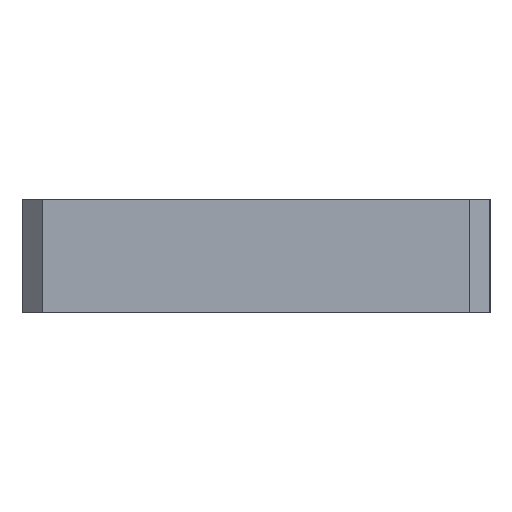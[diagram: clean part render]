
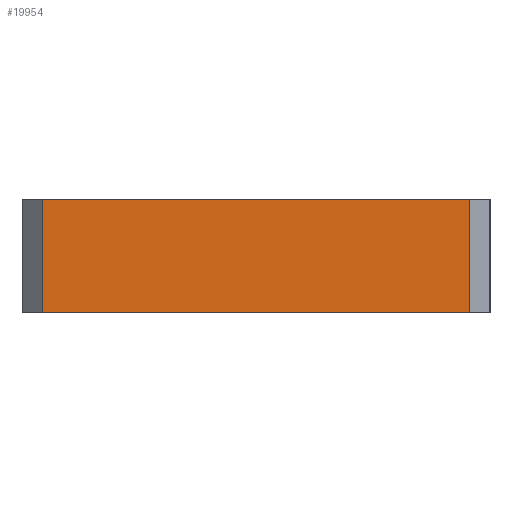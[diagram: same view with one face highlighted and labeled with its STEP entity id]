
A CAD part, top view. The second image highlights one B-rep face of the part: STEP entity #19954.
In plain terms, the highlighted planar face has unit normal (0, 0, 1).
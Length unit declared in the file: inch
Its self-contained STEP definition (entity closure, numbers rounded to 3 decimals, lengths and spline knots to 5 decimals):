
#2386 = DIRECTION ( 'NONE',  ( 1., 0., 0. ) ) ;
#2913 = LINE ( 'NONE', #45937, #46699 ) ;
#3547 = CARTESIAN_POINT ( 'NONE',  ( -2.0374, 0., 2.0374 ) ) ;
#4965 = DIRECTION ( 'NONE',  ( 0., 1., 0. ) ) ;
#5620 = VECTOR ( 'NONE', #10727, 39.37008 ) ;
#5778 = ORIENTED_EDGE ( 'NONE', *, *, #42465, .T. ) ;
#6552 = EDGE_CURVE ( 'NONE', #41989, #18247, #2913, .T. ) ;
#7332 = LINE ( 'NONE', #45635, #26673 ) ;
#9678 = VECTOR ( 'NONE', #4965, 39.37008 ) ;
#10727 = DIRECTION ( 'NONE',  ( 1., 0., 0. ) ) ;
#10785 = EDGE_CURVE ( 'NONE', #41989, #26444, #7332, .T. ) ;
#11354 = CARTESIAN_POINT ( 'NONE',  ( 1.8624, 0.98425, 2.0374 ) ) ;
#11392 = LINE ( 'NONE', #26763, #9678 ) ;
#13106 = PLANE ( 'NONE',  #38628 ) ;
#13730 = DIRECTION ( 'NONE',  ( 0., 0., -1. ) ) ;
#15299 = LINE ( 'NONE', #3547, #5620 ) ;
#15989 = FACE_OUTER_BOUND ( 'NONE', #44076, .T. ) ;
#17246 = DIRECTION ( 'NONE',  ( -1., 0., 0. ) ) ;
#18247 = VERTEX_POINT ( 'NONE', #11354 ) ;
#19954 = ADVANCED_FACE ( 'NONE', ( #15989 ), #13106, .F. ) ;
#21207 = EDGE_CURVE ( 'NONE', #29890, #18247, #11392, .T. ) ;
#24363 = CARTESIAN_POINT ( 'NONE',  ( 1.8624, 0., 2.0374 ) ) ;
#26444 = VERTEX_POINT ( 'NONE', #42460 ) ;
#26673 = VECTOR ( 'NONE', #30739, 39.37008 ) ;
#26763 = CARTESIAN_POINT ( 'NONE',  ( 1.8624, 0.98425, 2.0374 ) ) ;
#29890 = VERTEX_POINT ( 'NONE', #24363 ) ;
#30739 = DIRECTION ( 'NONE',  ( 0., -1., 0. ) ) ;
#31230 = CARTESIAN_POINT ( 'NONE',  ( -2.0374, 0.98425, 2.0374 ) ) ;
#36625 = ORIENTED_EDGE ( 'NONE', *, *, #21207, .T. ) ;
#38628 = AXIS2_PLACEMENT_3D ( 'NONE', #31230, #13730, #17246 ) ;
#41989 = VERTEX_POINT ( 'NONE', #45325 ) ;
#42460 = CARTESIAN_POINT ( 'NONE',  ( -1.8624, 0., 2.0374 ) ) ;
#42465 = EDGE_CURVE ( 'NONE', #26444, #29890, #15299, .T. ) ;
#43261 = ORIENTED_EDGE ( 'NONE', *, *, #6552, .F. ) ;
#44076 = EDGE_LOOP ( 'NONE', ( #43261, #45752, #5778, #36625 ) ) ;
#45325 = CARTESIAN_POINT ( 'NONE',  ( -1.8624, 0.98425, 2.0374 ) ) ;
#45635 = CARTESIAN_POINT ( 'NONE',  ( -1.8624, 0.98425, 2.0374 ) ) ;
#45752 = ORIENTED_EDGE ( 'NONE', *, *, #10785, .T. ) ;
#45937 = CARTESIAN_POINT ( 'NONE',  ( -2.0374, 0.98425, 2.0374 ) ) ;
#46699 = VECTOR ( 'NONE', #2386, 39.37008 ) ;
